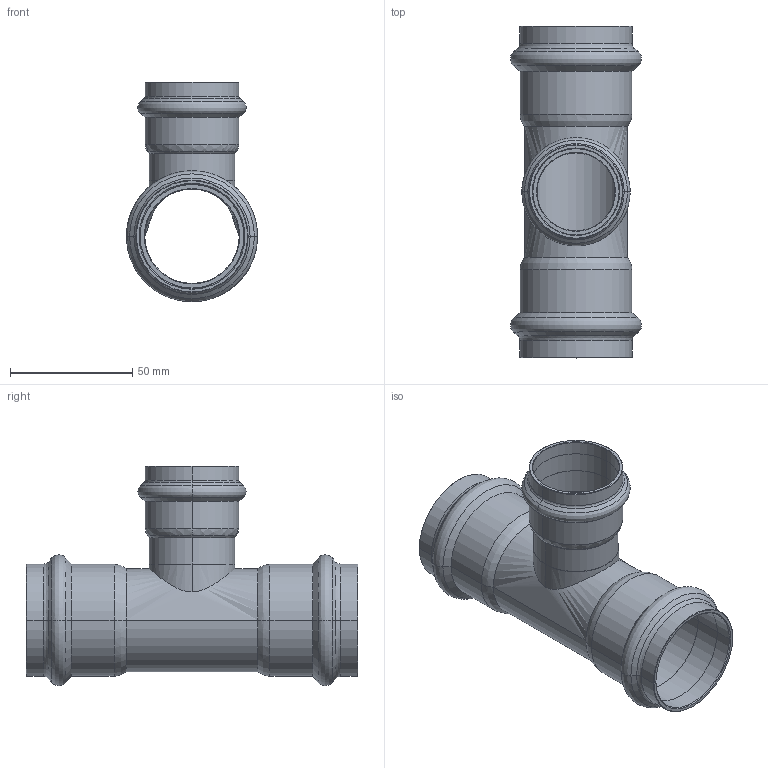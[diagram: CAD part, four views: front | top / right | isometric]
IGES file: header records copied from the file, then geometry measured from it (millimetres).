
Start section: Elysium IGES Interface
Global section: file name: C:\3d modellen sudo\C-Pr VP\SP8130RV\8130RVW423542.igs; native system: CoCreate Modeling 17.00A  17-Jun-2010; preprocessor: CoCreate IGES_3D V2.2; author: Unknown; organization: Unknown; date: 20130131.144434; units: millimetre
Bounding box: 53.61 x 135.73 x 89.78 mm (x, y, z)
Volume: 47837.1 mm3; surface area: 48377.8 mm2
Topology: 1 solids, 1 shells, 128 faces, 267 edges, 144 vertices
Faces by surface type: bspline 128
